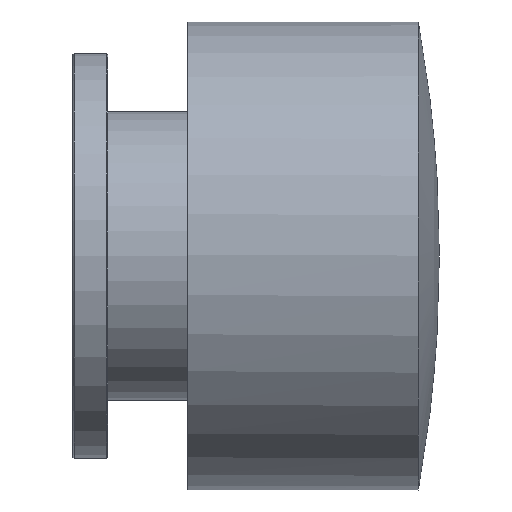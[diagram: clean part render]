
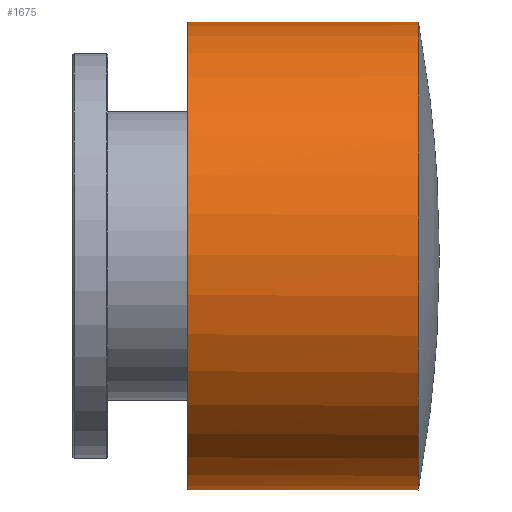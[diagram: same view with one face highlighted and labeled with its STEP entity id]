
A CAD part, top view. The second image highlights one B-rep face of the part: STEP entity #1675.
In plain terms, the highlighted cylindrical face has radius 33.5 mm (diameter 67 mm), a partial arc.
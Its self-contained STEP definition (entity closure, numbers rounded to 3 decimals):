
#1299=CARTESIAN_POINT('',(56.5,0.,0.));
#1300=DIRECTION('',(-1.,0.,0.));
#1301=DIRECTION('',(0.,-0.945,-0.328));
#1302=AXIS2_PLACEMENT_3D('',#1299,#1300,#1301);
#1304=DIRECTION('',(1.,0.,0.));
#1305=VECTOR('',#1304,33.);
#1306=CARTESIAN_POINT('',(56.5,-10.994,-31.645));
#1307=LINE('',#1306,#1305);
#1308=DIRECTION('',(-1.,0.,0.));
#1309=VECTOR('',#1308,33.);
#1310=CARTESIAN_POINT('',(89.5,-31.645,-10.994));
#1311=LINE('',#1310,#1309);
#1317=CARTESIAN_POINT('',(89.5,0.,0.));
#1318=DIRECTION('',(-1.,0.,0.));
#1319=DIRECTION('',(0.,-0.945,-0.328));
#1320=AXIS2_PLACEMENT_3D('',#1317,#1318,#1319);
#1332=CARTESIAN_POINT('',(89.5,0.,0.));
#1333=DIRECTION('',(-1.,0.,0.));
#1334=DIRECTION('',(0.,1.,0.));
#1335=AXIS2_PLACEMENT_3D('',#1332,#1333,#1334);
#1337=CARTESIAN_POINT('',(89.5,0.,0.));
#1338=DIRECTION('',(1.,0.,0.));
#1339=DIRECTION('',(0.,1.,0.));
#1340=AXIS2_PLACEMENT_3D('',#1337,#1338,#1339);
#1484=CARTESIAN_POINT('',(89.5,33.5,0.));
#1486=VERTEX_POINT('',#1484);
#1488=CARTESIAN_POINT('',(89.5,-33.5,0.));
#1489=VERTEX_POINT('',#1488);
#1490=CARTESIAN_POINT('',(56.5,-31.645,-10.994));
#1491=CARTESIAN_POINT('',(56.5,-10.994,-31.645));
#1492=VERTEX_POINT('',#1490);
#1493=VERTEX_POINT('',#1491);
#1494=CARTESIAN_POINT('',(89.5,-31.645,-10.994));
#1495=VERTEX_POINT('',#1494);
#1496=CARTESIAN_POINT('',(89.5,-10.994,-31.645));
#1497=VERTEX_POINT('',#1496);
#1659=CARTESIAN_POINT('',(54.7,0.,0.));
#1660=DIRECTION('',(1.,0.,0.));
#1661=DIRECTION('',(0.,1.,0.));
#1662=AXIS2_PLACEMENT_3D('',#1659,#1660,#1661);
#1663=CYLINDRICAL_SURFACE('',#1662,33.5);
#1664=ORIENTED_EDGE('',*,*,#1630,.T.);
#1665=ORIENTED_EDGE('',*,*,#1654,.T.);
#1667=ORIENTED_EDGE('',*,*,#1666,.F.);
#1669=ORIENTED_EDGE('',*,*,#1668,.T.);
#1671=ORIENTED_EDGE('',*,*,#1670,.F.);
#1672=ORIENTED_EDGE('',*,*,#1650,.T.);
#1673=EDGE_LOOP('',(#1664,#1665,#1667,#1669,#1671,#1672));
#1674=FACE_OUTER_BOUND('',#1673,.F.);
#1675=ADVANCED_FACE('',(#1674),#1663,.T.);
#1303=CIRCLE('',#1302,33.5);
#1321=CIRCLE('',#1320,33.5);
#1336=CIRCLE('',#1335,33.5);
#1341=CIRCLE('',#1340,33.5);
#1630=EDGE_CURVE('',#1492,#1493,#1303,.T.);
#1650=EDGE_CURVE('',#1495,#1492,#1311,.T.);
#1654=EDGE_CURVE('',#1493,#1497,#1307,.T.);
#1666=EDGE_CURVE('',#1486,#1497,#1336,.T.);
#1668=EDGE_CURVE('',#1486,#1489,#1341,.T.);
#1670=EDGE_CURVE('',#1495,#1489,#1321,.T.);
